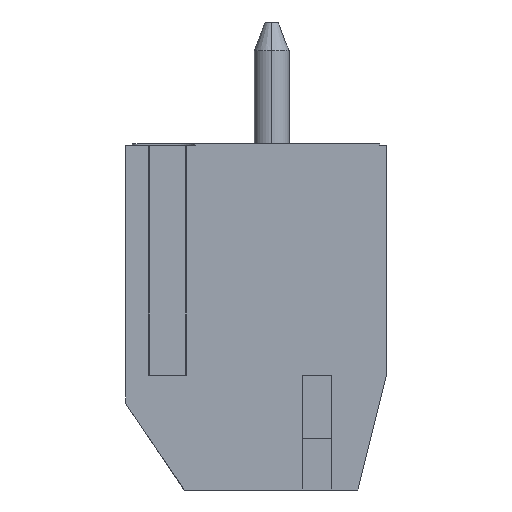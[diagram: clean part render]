
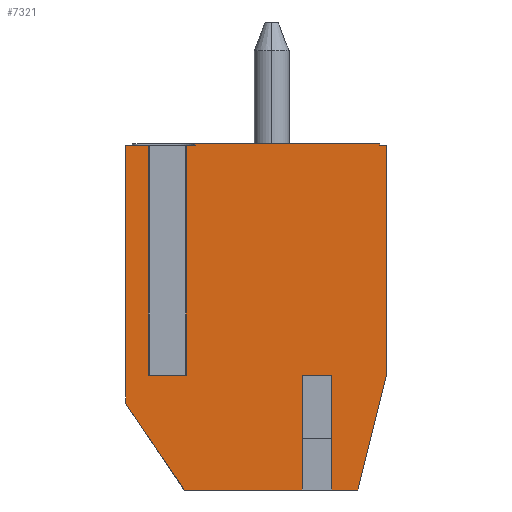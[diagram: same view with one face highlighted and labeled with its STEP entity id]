
A CAD part, left-side view. The second image highlights one B-rep face of the part: STEP entity #7321.
In plain terms, the highlighted planar face has unit normal (-1, 0, 0).
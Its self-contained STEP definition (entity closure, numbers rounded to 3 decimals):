
#24=DIRECTION('',(0.,1.,0.));
#25=VECTOR('',#24,0.773);
#26=CARTESIAN_POINT('',(0.5,6.747,-0.05));
#27=LINE('',#26,#25);
#218=DIRECTION('',(0.,1.,0.));
#219=VECTOR('',#218,0.2);
#220=CARTESIAN_POINT('',(0.5,0.02,-0.05));
#221=LINE('',#220,#219);
#252=DIRECTION('',(0.,1.,0.));
#253=VECTOR('',#252,0.373);
#254=CARTESIAN_POINT('',(0.5,5.52,-0.05));
#255=LINE('',#254,#253);
#361=DIRECTION('',(0.,0.,-1.));
#362=VECTOR('',#361,6.6);
#363=CARTESIAN_POINT('',(0.5,5.893,-0.05));
#364=LINE('',#363,#362);
#369=DIRECTION('',(0.,1.,0.));
#370=VECTOR('',#369,0.854);
#371=CARTESIAN_POINT('',(0.5,1.593,-6.65));
#372=LINE('',#371,#370);
#373=DIRECTION('',(0.,0.559,0.829));
#374=VECTOR('',#373,3.016);
#375=CARTESIAN_POINT('',(0.5,5.834,-9.95));
#376=LINE('',#375,#374);
#377=DIRECTION('',(0.,0.,1.));
#378=VECTOR('',#377,7.4);
#379=CARTESIAN_POINT('',(0.5,7.52,-7.45));
#380=LINE('',#379,#378);
#381=DIRECTION('',(0.,-1.,0.));
#382=VECTOR('',#381,0.854);
#383=CARTESIAN_POINT('',(0.5,6.747,-6.65));
#384=LINE('',#383,#382);
#385=DIRECTION('',(0.,0.,-1.));
#386=VECTOR('',#385,0.05);
#387=CARTESIAN_POINT('',(0.5,0.22,0.));
#388=LINE('',#387,#386);
#389=DIRECTION('',(0.,0.242,-0.97));
#390=VECTOR('',#389,3.401);
#391=CARTESIAN_POINT('',(0.5,0.02,-6.65));
#392=LINE('',#391,#390);
#397=DIRECTION('',(0.,0.,-1.));
#398=VECTOR('',#397,3.3);
#399=CARTESIAN_POINT('',(0.5,1.593,-6.65));
#400=LINE('',#399,#398);
#415=DIRECTION('',(0.,-1.,0.));
#416=VECTOR('',#415,3.387);
#417=CARTESIAN_POINT('',(0.5,5.834,-9.95));
#418=LINE('',#417,#416);
#447=DIRECTION('',(0.,-1.,0.));
#448=VECTOR('',#447,0.75);
#449=CARTESIAN_POINT('',(0.5,1.593,-9.95));
#450=LINE('',#449,#448);
#2715=DIRECTION('',(0.,0.,1.));
#2716=VECTOR('',#2715,3.3);
#2717=CARTESIAN_POINT('',(0.5,2.447,-9.95));
#2718=LINE('',#2717,#2716);
#3181=DIRECTION('',(0.,0.,1.));
#3182=VECTOR('',#3181,6.6);
#3183=CARTESIAN_POINT('',(0.5,0.02,-6.65));
#3184=LINE('',#3183,#3182);
#5235=DIRECTION('',(0.,0.,1.));
#5236=VECTOR('',#5235,6.6);
#5237=CARTESIAN_POINT('',(0.5,6.747,-6.65));
#5238=LINE('',#5237,#5236);
#5259=DIRECTION('',(0.,0.,-1.));
#5260=VECTOR('',#5259,0.05);
#5261=CARTESIAN_POINT('',(0.5,5.52,0.));
#5262=LINE('',#5261,#5260);
#5344=DIRECTION('',(0.,1.,0.));
#5345=VECTOR('',#5344,5.3);
#5346=CARTESIAN_POINT('',(0.5,0.22,0.));
#5347=LINE('',#5346,#5345);
#5659=CARTESIAN_POINT('',(0.5,6.747,-0.05));
#5660=VERTEX_POINT('',#5659);
#5661=CARTESIAN_POINT('',(0.5,7.52,-0.05));
#5662=VERTEX_POINT('',#5661);
#5777=CARTESIAN_POINT('',(0.5,0.02,-0.05));
#5778=VERTEX_POINT('',#5777);
#5779=CARTESIAN_POINT('',(0.5,0.22,-0.05));
#5780=VERTEX_POINT('',#5779);
#5805=CARTESIAN_POINT('',(0.5,5.52,-0.05));
#5806=VERTEX_POINT('',#5805);
#5807=CARTESIAN_POINT('',(0.5,5.893,-0.05));
#5808=VERTEX_POINT('',#5807);
#5865=CARTESIAN_POINT('',(0.5,5.893,-6.65));
#5866=VERTEX_POINT('',#5865);
#5867=CARTESIAN_POINT('',(0.5,6.747,-6.65));
#5868=VERTEX_POINT('',#5867);
#5875=CARTESIAN_POINT('',(0.5,1.593,-6.65));
#5876=CARTESIAN_POINT('',(0.5,1.593,-9.95));
#5877=VERTEX_POINT('',#5875);
#5878=VERTEX_POINT('',#5876);
#5879=CARTESIAN_POINT('',(0.5,2.447,-6.65));
#5880=VERTEX_POINT('',#5879);
#5881=CARTESIAN_POINT('',(0.5,2.447,-9.95));
#5882=VERTEX_POINT('',#5881);
#5883=CARTESIAN_POINT('',(0.5,5.834,-9.95));
#5884=VERTEX_POINT('',#5883);
#5885=CARTESIAN_POINT('',(0.5,7.52,-7.45));
#5886=VERTEX_POINT('',#5885);
#5887=CARTESIAN_POINT('',(0.5,5.52,0.));
#5888=VERTEX_POINT('',#5887);
#5889=CARTESIAN_POINT('',(0.5,0.22,0.));
#5890=VERTEX_POINT('',#5889);
#5891=CARTESIAN_POINT('',(0.5,0.02,-6.65));
#5892=VERTEX_POINT('',#5891);
#5893=CARTESIAN_POINT('',(0.5,0.843,-9.95));
#5894=VERTEX_POINT('',#5893);
#7283=CARTESIAN_POINT('',(0.5,7.52,-0.05));
#7284=DIRECTION('',(-1.,0.,0.));
#7285=DIRECTION('',(0.,-1.,0.));
#7286=AXIS2_PLACEMENT_3D('',#7283,#7284,#7285);
#7287=PLANE('',#7286);
#7289=ORIENTED_EDGE('',*,*,#7288,.F.);
#7291=ORIENTED_EDGE('',*,*,#7290,.T.);
#7293=ORIENTED_EDGE('',*,*,#7292,.F.);
#7295=ORIENTED_EDGE('',*,*,#7294,.F.);
#7297=ORIENTED_EDGE('',*,*,#7296,.T.);
#7299=ORIENTED_EDGE('',*,*,#7298,.T.);
#7300=ORIENTED_EDGE('',*,*,#7010,.F.);
#7302=ORIENTED_EDGE('',*,*,#7301,.F.);
#7303=ORIENTED_EDGE('',*,*,#7244,.T.);
#7304=ORIENTED_EDGE('',*,*,#7275,.F.);
#7305=ORIENTED_EDGE('',*,*,#7156,.F.);
#7307=ORIENTED_EDGE('',*,*,#7306,.F.);
#7309=ORIENTED_EDGE('',*,*,#7308,.F.);
#7311=ORIENTED_EDGE('',*,*,#7310,.T.);
#7312=ORIENTED_EDGE('',*,*,#7128,.F.);
#7314=ORIENTED_EDGE('',*,*,#7313,.F.);
#7316=ORIENTED_EDGE('',*,*,#7315,.T.);
#7318=ORIENTED_EDGE('',*,*,#7317,.F.);
#7319=EDGE_LOOP('',(#7289,#7291,#7293,#7295,#7297,#7299,#7300,#7302,#7303,#7304,
#7305,#7307,#7309,#7311,#7312,#7314,#7316,#7318));
#7320=FACE_OUTER_BOUND('',#7319,.F.);
#7321=ADVANCED_FACE('',(#7320),#7287,.T.);
#7010=EDGE_CURVE('',#5660,#5662,#27,.T.);
#7128=EDGE_CURVE('',#5778,#5780,#221,.T.);
#7156=EDGE_CURVE('',#5806,#5808,#255,.T.);
#7244=EDGE_CURVE('',#5868,#5866,#384,.T.);
#7275=EDGE_CURVE('',#5808,#5866,#364,.T.);
#7288=EDGE_CURVE('',#5877,#5878,#400,.T.);
#7290=EDGE_CURVE('',#5877,#5880,#372,.T.);
#7292=EDGE_CURVE('',#5882,#5880,#2718,.T.);
#7294=EDGE_CURVE('',#5884,#5882,#418,.T.);
#7296=EDGE_CURVE('',#5884,#5886,#376,.T.);
#7298=EDGE_CURVE('',#5886,#5662,#380,.T.);
#7301=EDGE_CURVE('',#5868,#5660,#5238,.T.);
#7306=EDGE_CURVE('',#5888,#5806,#5262,.T.);
#7308=EDGE_CURVE('',#5890,#5888,#5347,.T.);
#7310=EDGE_CURVE('',#5890,#5780,#388,.T.);
#7313=EDGE_CURVE('',#5892,#5778,#3184,.T.);
#7315=EDGE_CURVE('',#5892,#5894,#392,.T.);
#7317=EDGE_CURVE('',#5878,#5894,#450,.T.);
